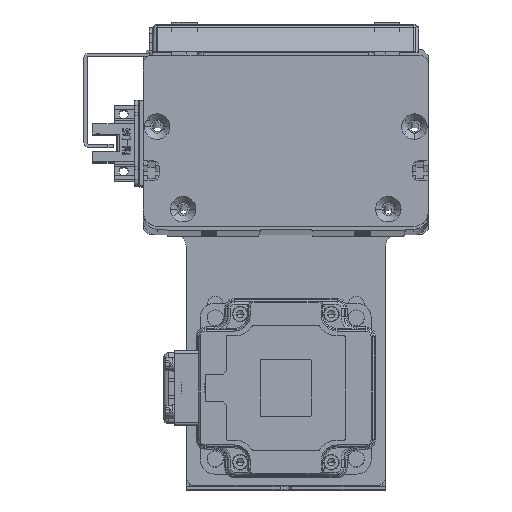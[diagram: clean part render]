
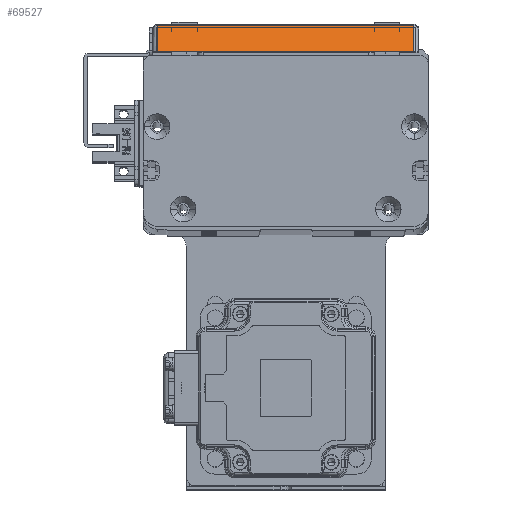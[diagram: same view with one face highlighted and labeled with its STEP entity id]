
A CAD part, top view. The second image highlights one B-rep face of the part: STEP entity #69527.
In plain terms, the highlighted planar face has unit normal (0, 0.707, 0.707) as drawn and (-0.707, 0, -0.707) by its records, which use the part's own axes.
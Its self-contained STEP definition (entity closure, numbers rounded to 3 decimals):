
#152 = LINE ( 'NONE', #38153, #61962 ) ;
#4789 = VECTOR ( 'NONE', #55823, 1000. ) ;
#5242 = VERTEX_POINT ( 'NONE', #39928 ) ;
#6212 = CARTESIAN_POINT ( 'NONE',  ( -66.5, 93.4, 4.1 ) ) ;
#7894 = DIRECTION ( 'NONE',  ( -0.707, 0., -0.707 ) ) ;
#13098 = ORIENTED_EDGE ( 'NONE', *, *, #58483, .T. ) ;
#14028 = VERTEX_POINT ( 'NONE', #69618 ) ;
#18677 = VERTEX_POINT ( 'NONE', #35891 ) ;
#25761 = CARTESIAN_POINT ( 'NONE',  ( -68., 1.7, 5.6 ) ) ;
#27541 = EDGE_LOOP ( 'NONE', ( #13098, #60577, #49527, #59288 ) ) ;
#33034 = DIRECTION ( 'NONE',  ( 0.707, 0., -0.707 ) ) ;
#33666 = EDGE_CURVE ( 'NONE', #18677, #5242, #55327, .T. ) ;
#34030 = DIRECTION ( 'NONE',  ( 0., 1., 0. ) ) ;
#34506 = FACE_OUTER_BOUND ( 'NONE', #27541, .T. ) ;
#35465 = DIRECTION ( 'NONE',  ( -0.707, 0., 0.707 ) ) ;
#35706 = CARTESIAN_POINT ( 'NONE',  ( -68., 93.4, 5.6 ) ) ;
#35891 = CARTESIAN_POINT ( 'NONE',  ( -57.298, 91.7, -5.102 ) ) ;
#36170 = LINE ( 'NONE', #25761, #67428 ) ;
#38082 = CARTESIAN_POINT ( 'NONE',  ( -57.298, 93.4, -5.102 ) ) ;
#38153 = CARTESIAN_POINT ( 'NONE',  ( -68., 91.7, 5.6 ) ) ;
#39928 = CARTESIAN_POINT ( 'NONE',  ( -57.298, 1.7, -5.102 ) ) ;
#41022 = PLANE ( 'NONE',  #68606 ) ;
#44356 = VERTEX_POINT ( 'NONE', #60416 ) ;
#49527 = ORIENTED_EDGE ( 'NONE', *, *, #65237, .T. ) ;
#53338 = EDGE_CURVE ( 'NONE', #44356, #14028, #65057, .T. ) ;
#55327 = LINE ( 'NONE', #38082, #4789 ) ;
#55823 = DIRECTION ( 'NONE',  ( 0., -1., 0. ) ) ;
#58483 = EDGE_CURVE ( 'NONE', #5242, #44356, #36170, .T. ) ;
#59288 = ORIENTED_EDGE ( 'NONE', *, *, #33666, .T. ) ;
#59834 = VECTOR ( 'NONE', #34030, 1000. ) ;
#60416 = CARTESIAN_POINT ( 'NONE',  ( -66.5, 1.7, 4.1 ) ) ;
#60577 = ORIENTED_EDGE ( 'NONE', *, *, #53338, .T. ) ;
#61962 = VECTOR ( 'NONE', #33034, 1000. ) ;
#64891 = DIRECTION ( 'NONE',  ( -0.707, 0., 0.707 ) ) ;
#65057 = LINE ( 'NONE', #6212, #59834 ) ;
#65237 = EDGE_CURVE ( 'NONE', #14028, #18677, #152, .T. ) ;
#67428 = VECTOR ( 'NONE', #64891, 1000. ) ;
#68606 = AXIS2_PLACEMENT_3D ( 'NONE', #35706, #7894, #35465 ) ;
#69527 = ADVANCED_FACE ( 'NONE', ( #34506 ), #41022, .T. ) ;
#69618 = CARTESIAN_POINT ( 'NONE',  ( -66.5, 91.7, 4.1 ) ) ;
